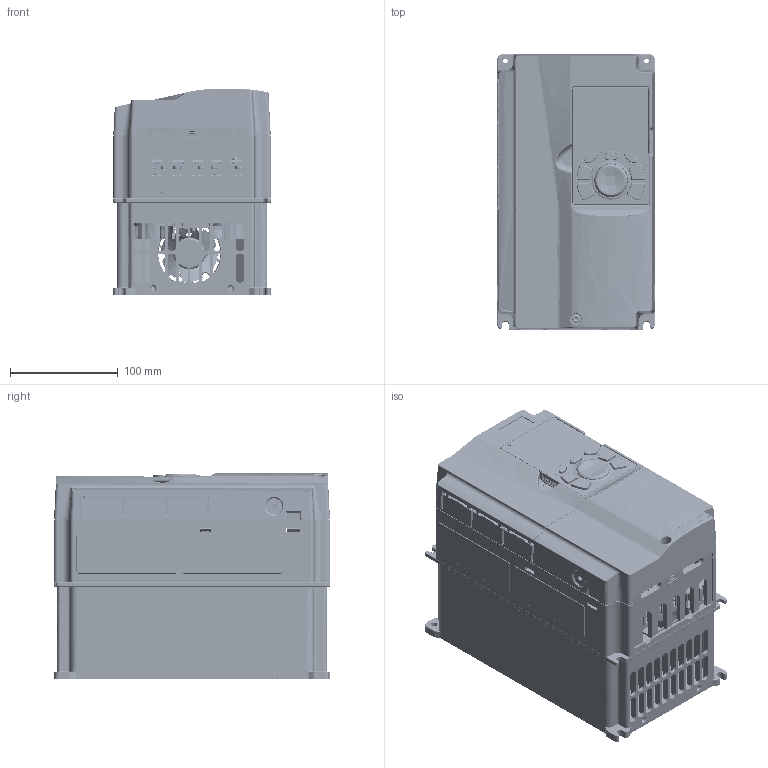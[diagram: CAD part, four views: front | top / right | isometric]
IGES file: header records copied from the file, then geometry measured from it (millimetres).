
Start section: SolidWorks IGES file using analytic representation for surfaces
Global section: file name: T:\Eng\INVT\Driver VFD\B7 drawing info\B7 2D & 3D drawings (PNs refer to INVT products)\GD350-UL_3D stp\UMI-1.5-2.2CU_4.0-5.5EU-B7\UMI-1.5-2.2CU_4.0-5.5EU-B7.IGS; native system: SolidWorks 2022; preprocessor: SolidWorks 2022; author: OfirZ; date: 240818.090308; units: millimetre
Bounding box: 147 x 256 x 191.87 mm (x, y, z)
Surface area: 881234.2 mm2 (no closed solid volume)
Topology: 0 solids, 0 shells, 12350 faces, 119420 edges, 119321 vertices
Faces by surface type: bspline 8868, revolution 3482
